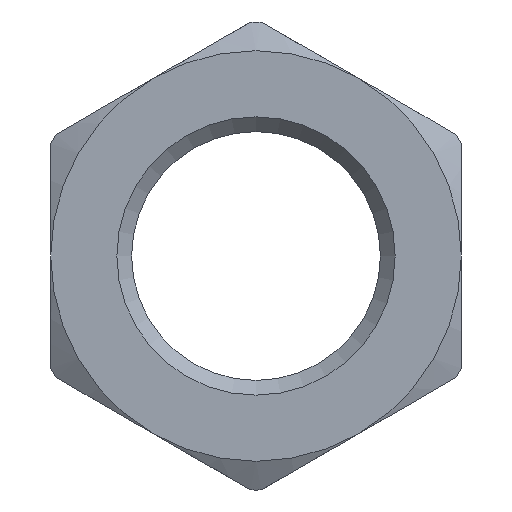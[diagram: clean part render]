
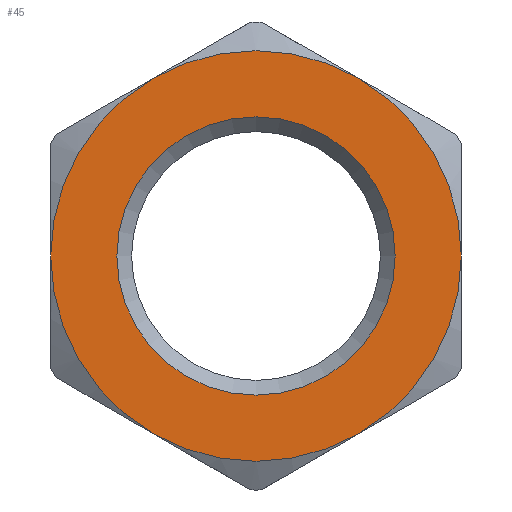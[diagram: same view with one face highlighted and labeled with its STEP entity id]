
A CAD part, front view. The second image highlights one B-rep face of the part: STEP entity #45.
In plain terms, the highlighted planar face has unit normal (0, -1, 0).
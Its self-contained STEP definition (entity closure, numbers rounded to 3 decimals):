
#45=ADVANCED_FACE('',(#77,#79),#81,.F.);
#77=FACE_BOUND('',#78,.T.);
#78=EDGE_LOOP('',(#254,#255,#256,#257));
#79=FACE_BOUND('',#80,.T.);
#80=EDGE_LOOP('',(#258));
#81=PLANE('',#82);
#82=AXIS2_PLACEMENT_3D('',#83,#84,#85);
#83=CARTESIAN_POINT('',(0.,0.,0.));
#84=DIRECTION('',(0.,1.,0.));
#85=DIRECTION('',(-1.,0.,0.));
#254=ORIENTED_EDGE('',*,*,#356,.T.);
#255=ORIENTED_EDGE('',*,*,#357,.T.);
#256=ORIENTED_EDGE('',*,*,#358,.T.);
#257=ORIENTED_EDGE('',*,*,#359,.T.);
#258=ORIENTED_EDGE('',*,*,#360,.T.);
#356=EDGE_CURVE('',#409,#410,#411,.F.);
#357=EDGE_CURVE('',#410,#412,#413,.F.);
#358=EDGE_CURVE('',#412,#414,#415,.F.);
#359=EDGE_CURVE('',#414,#409,#416,.F.);
#360=EDGE_CURVE('',#417,#417,#418,.T.);
#409=VERTEX_POINT('',#501);
#410=VERTEX_POINT('',#502);
#411=CIRCLE('',#503,25.);
#412=VERTEX_POINT('',#507);
#413=CIRCLE('',#508,25.);
#414=VERTEX_POINT('',#512);
#415=CIRCLE('',#513,25.);
#416=CIRCLE('',#517,25.);
#417=VERTEX_POINT('',#521);
#418=CIRCLE('',#522,16.946);
#501=CARTESIAN_POINT('',(25.,0.,0.));
#502=CARTESIAN_POINT('',(-12.5,0.,21.651));
#503=AXIS2_PLACEMENT_3D('',#504,#505,#506);
#504=CARTESIAN_POINT('',(0.,0.,0.));
#505=DIRECTION('',(0.,1.,0.));
#506=DIRECTION('',(-0.5,0.,0.866));
#507=CARTESIAN_POINT('',(-25.,0.,0.));
#508=AXIS2_PLACEMENT_3D('',#509,#510,#511);
#509=CARTESIAN_POINT('',(0.,0.,0.));
#510=DIRECTION('',(0.,1.,0.));
#511=DIRECTION('',(-1.,0.,0.));
#512=CARTESIAN_POINT('',(-12.5,0.,-21.651));
#513=AXIS2_PLACEMENT_3D('',#514,#515,#516);
#514=CARTESIAN_POINT('',(0.,0.,0.));
#515=DIRECTION('',(0.,1.,0.));
#516=DIRECTION('',(-0.5,0.,-0.866));
#517=AXIS2_PLACEMENT_3D('',#518,#519,#520);
#518=CARTESIAN_POINT('',(0.,0.,0.));
#519=DIRECTION('',(0.,1.,0.));
#520=DIRECTION('',(1.,0.,0.));
#521=CARTESIAN_POINT('',(-16.946,0.,0.));
#522=AXIS2_PLACEMENT_3D('',#523,#524,#525);
#523=CARTESIAN_POINT('',(0.,0.,0.));
#524=DIRECTION('',(0.,1.,0.));
#525=DIRECTION('',(-1.,0.,0.));
